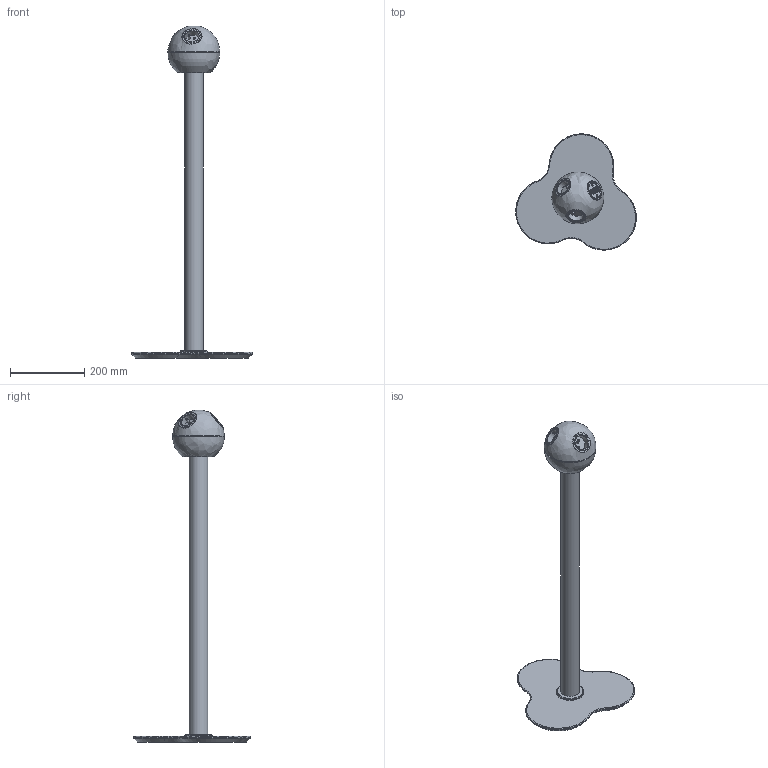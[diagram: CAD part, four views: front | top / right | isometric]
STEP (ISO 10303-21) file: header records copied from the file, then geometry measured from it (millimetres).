
FILE_DESCRIPTION (( 'STEP AP203' ), '1' );
FILE_NAME ('Pelican 1007 - Block.stp', '2019-07-03T14:00:30', ( '' ), ( '' ), 'SwSTEP 2.0', 'SolidWorks 2019', '' );
FILE_SCHEMA (( 'CONFIG_CONTROL_DESIGN' ));
Length unit declared in the file: millimetre
Products named in the file (1): Pelican 1007 - Block
Bounding box: 325.54 x 313.86 x 896.02 mm (x, y, z)
Volume: 3801200.5 mm3; surface area: 353900.2 mm2
Topology: 6 solids, 6 shells, 649 faces, 1680 edges, 1094 vertices
Faces by surface type: plane 432, cylinder 115, bspline 90, cone 10, torus 2
Full cylindrical faces by diameter (mm): 1.2 x4, 4.98 x3, 5.106 x2, 5.5 x2, 5.671 x4, 6.6 x2, 8.1 x3, 39 x2, 42 x2, 43.09 x1, 43.739 x1, 44.283 x1, 44.8 x2, 45 x3, 50 x1, 74 x1, 135 x1
Entity records: 22647 total; most frequent: CARTESIAN_POINT 7601, ORIENTED_EDGE 3220, DIRECTION 2718, EDGE_CURVE 1610, LINE 1202, VECTOR 1202, VERTEX_POINT 1077, EDGE_LOOP 779
